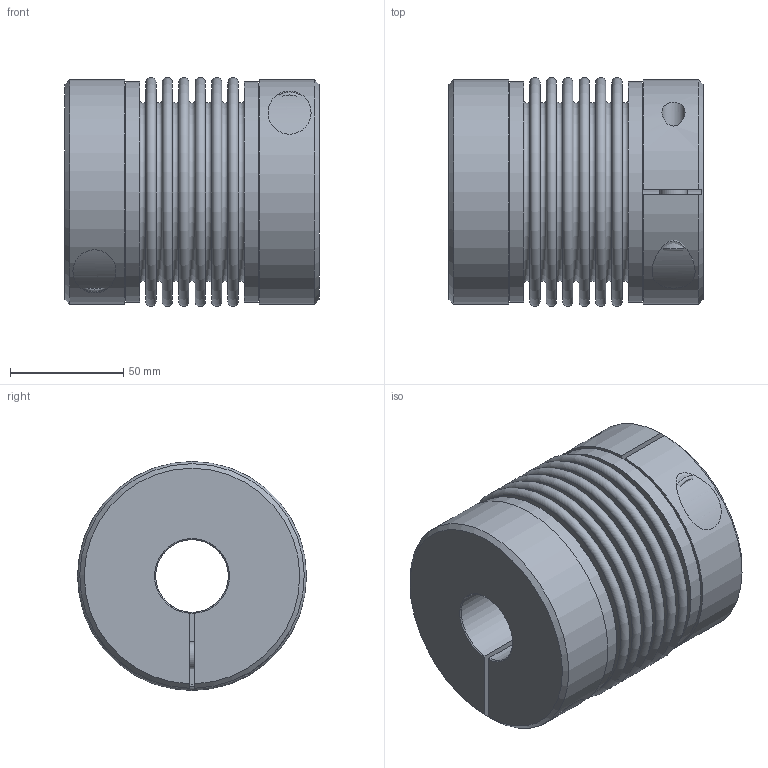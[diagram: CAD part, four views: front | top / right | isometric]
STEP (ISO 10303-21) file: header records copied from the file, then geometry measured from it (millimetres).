
FILE_DESCRIPTION(/* description */ ('Unknown'),/* implementation_level */ '2;1');
FILE_NAME(/* name */ 'KM 400 - 112',/* time_stamp */ '2020-05-07T09:31:09+03:00',/* author */ ('Unknown'),/* organization */ ('Unknown'),/* preprocessor_version */ 'ST-DEVELOPER v16.7',/* originating_system */ 'DEX',/* authorisation */ $);
FILE_SCHEMA (('AUTOMOTIVE_DESIGN {1 0 10303 214 3 1 1}'));
Length unit declared in the file: millimetre
Products named in the file (1): KM  400 - 1122
Bounding box: 112 x 101 x 101 mm (x, y, z)
Volume: 468886.6 mm3; surface area: 159082.4 mm2
Topology: 1 solids, 3 shells, 140 faces, 282 edges, 184 vertices
Faces by surface type: plane 76, cylinder 28, torus 28, cone 8
Full cylindrical faces by diameter (mm): 10.2 x2, 12 x2, 12.5 x2, 13 x2, 18 x2, 19 x2, 97.2 x2
Entity records: 3573 total; most frequent: CARTESIAN_POINT 770, DIRECTION 612, ORIENTED_EDGE 444, AXIS2_PLACEMENT_3D 257, FACE_BOUND 232, EDGE_LOOP 226, EDGE_CURVE 222, VERTEX_POINT 174
